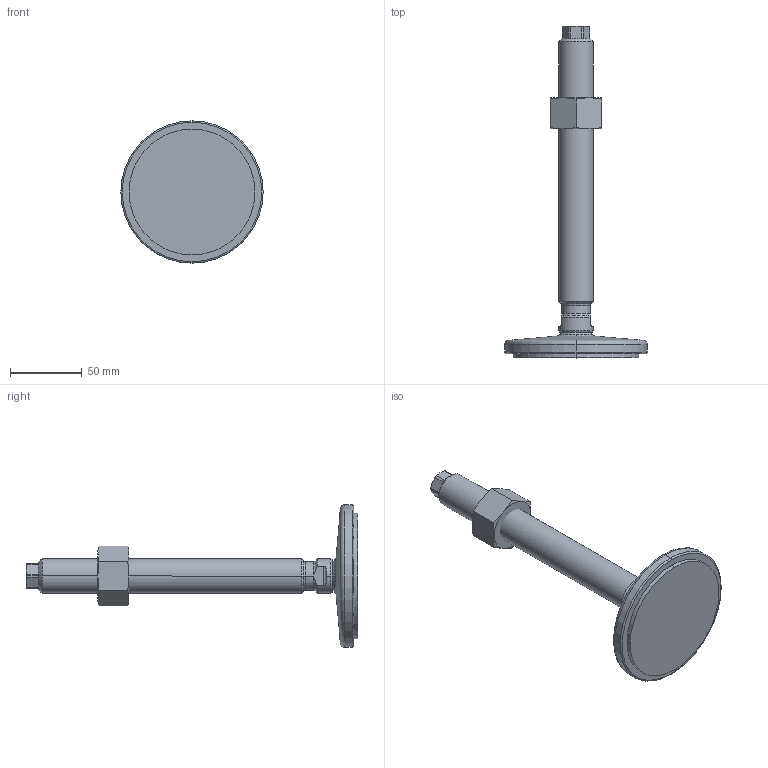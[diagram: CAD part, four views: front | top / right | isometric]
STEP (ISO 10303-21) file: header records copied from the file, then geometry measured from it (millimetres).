
FILE_DESCRIPTION (( 'STEP AP214' ), '1' );
FILE_NAME ('21-100-M24-200-D1-VK.step', '2020-10-02T17:37:31', ( '' ), ( '' ), 'SwSTEP 2.0', 'SolidWorks 2019', '' );
FILE_SCHEMA (( 'AUTOMOTIVE_DESIGN' ));
Length unit declared in the file: millimetre
Products named in the file (4): 21-100-M24-200-D1-VK; WB21_Fußteller 21^WB21_V_D1-100-R14-B9 (M24); WB21_Spindel_V^WB21_V_M24-200; WB4032^WB21_V_M24
Assembly tree (3 placements, depth 2):
  21-100-M24-200-D1-VK
    WB21_Fußteller 21^WB21_V_D1-100-R14-B9 (M24)
    WB21_Spindel_V^WB21_V_M24-200
    WB4032^WB21_V_M24
Bounding box: 99 x 230.9 x 99 mm (x, y, z)
Volume: 208194.9 mm3; surface area: 41138.1 mm2
Topology: 3 solids, 3 shells, 98 faces, 219 edges, 129 vertices
Faces by surface type: cone 29, plane 28, cylinder 27, torus 10, sphere 4
Entity records: 3129 total; most frequent: CARTESIAN_POINT 736, DIRECTION 476, ORIENTED_EDGE 438, EDGE_CURVE 219, AXIS2_PLACEMENT_3D 205, VERTEX_POINT 129, EDGE_LOOP 102, CIRCLE 101
